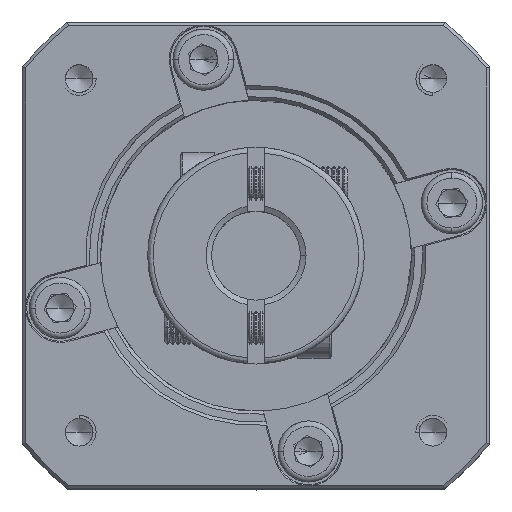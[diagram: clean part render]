
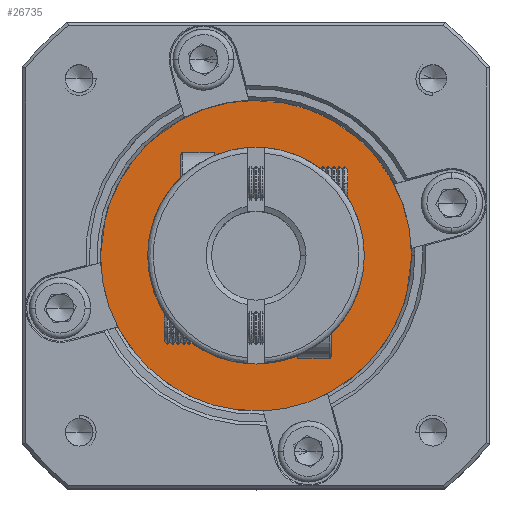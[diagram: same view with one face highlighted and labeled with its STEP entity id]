
A CAD part, top view. The second image highlights one B-rep face of the part: STEP entity #26735.
In plain terms, the highlighted planar face has unit normal (0, 0, 1).
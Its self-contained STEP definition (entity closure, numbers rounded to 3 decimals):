
#9839 = CARTESIAN_POINT ( 'NONE',  ( -21.557, 4.283, 61.425 ) ) ;
#11030 = VERTEX_POINT ( 'NONE', #112269 ) ;
#20850 = DIRECTION ( 'NONE',  ( -1., 0., 0. ) ) ;
#26735 = ADVANCED_FACE ( 'NONE', ( #54851 ), #49393, .T. ) ;
#31986 = EDGE_CURVE ( 'NONE', #79713, #11030, #63207, .T. ) ;
#38898 = DIRECTION ( 'NONE',  ( 0., 0., 1. ) ) ;
#42019 = CIRCLE ( 'NONE', #63811, 20.8 ) ;
#49393 = PLANE ( 'NONE',  #113328 ) ;
#49913 = DIRECTION ( 'NONE',  ( 0., 0., -1. ) ) ;
#54851 = FACE_OUTER_BOUND ( 'NONE', #76459, .T. ) ;
#63207 = CIRCLE ( 'NONE', #129010, 20.8 ) ;
#63811 = AXIS2_PLACEMENT_3D ( 'NONE', #9839, #85979, #20850 ) ;
#76459 = EDGE_LOOP ( 'NONE', ( #104510, #136465 ) ) ;
#79713 = VERTEX_POINT ( 'NONE', #124934 ) ;
#85979 = DIRECTION ( 'NONE',  ( 0., 0., -1. ) ) ;
#104011 = CARTESIAN_POINT ( 'NONE',  ( -21.557, 4.283, 61.425 ) ) ;
#104510 = ORIENTED_EDGE ( 'NONE', *, *, #31986, .F. ) ;
#107237 = EDGE_CURVE ( 'NONE', #11030, #79713, #42019, .T. ) ;
#112269 = CARTESIAN_POINT ( 'NONE',  ( -0.757, 4.283, 61.425 ) ) ;
#113328 = AXIS2_PLACEMENT_3D ( 'NONE', #104011, #38898, #114944 ) ;
#114944 = DIRECTION ( 'NONE',  ( 1., 0., 0. ) ) ;
#114987 = CARTESIAN_POINT ( 'NONE',  ( -21.557, 4.283, 61.425 ) ) ;
#124934 = CARTESIAN_POINT ( 'NONE',  ( -42.357, 4.283, 61.425 ) ) ;
#125935 = DIRECTION ( 'NONE',  ( -1., 0., 0. ) ) ;
#129010 = AXIS2_PLACEMENT_3D ( 'NONE', #114987, #49913, #125935 ) ;
#136465 = ORIENTED_EDGE ( 'NONE', *, *, #107237, .F. ) ;
